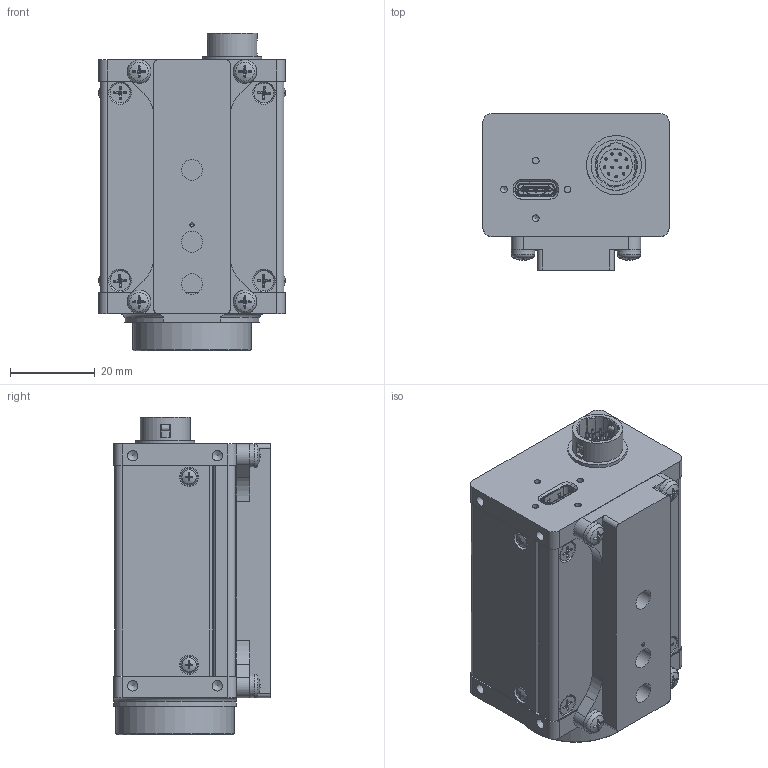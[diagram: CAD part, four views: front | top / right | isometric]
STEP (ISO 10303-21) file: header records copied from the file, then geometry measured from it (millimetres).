
FILE_DESCRIPTION(/* description */ (''),/* implementation_level */ '2;1');
FILE_NAME(/* name */ 'D:\HiDrive\1_Konstruktion\1_KUNDEN\TIS\205-16_12 MP-Camera (Sensor 23x20)\205-16-1_Cam.44x29-Sens.23x20-12MP-USB3.1C\IPT und STEP Ableitungen für Kunden\205-16-12_Cam.44x29_USB3.1C_C-FP_18,3_ER-11,7.stp',/* time_stamp */ '2017-11-05T18:12:23+01:00',/* author */ ('khw'),/* organization */ (''),/* preprocessor_version */ 'ST-DEVELOPER v16.5',/* originating_system */ 'Autodesk Inventor 2017',/* authorisation */ '');
FILE_SCHEMA (('AUTOMOTIVE_DESIGN { 1 0 10303 214 3 1 1 }'));
Products named in the file (4): 205-16-12_Cam.44x29_USB3.1C_C-FP_18,3_ER-11,7; 205-16-12_Cam.44x29_USB3.1C_C-FP_18,3_ER-11,7_1; 205-16-1-00-04_TripodAdapter; ISO 7045 - M3 x 6 - 4.8 - H
Assembly tree (6 placements, depth 2):
  205-16-12_Cam.44x29_USB3.1C_C-FP_18,3_ER-11,7
    205-16-12_Cam.44x29_USB3.1C_C-FP_18,3_ER-11,7_1
    205-16-1-00-04_TripodAdapter
    ISO 7045 - M3 x 6 - 4.8 - H  x4
Bounding box: 44.07 x 37 x 75.05 mm (x, y, z)
Volume: 41452.2 mm3; surface area: 32710.2 mm2
Topology: 7 solids, 26 shells, 3265 faces, 9516 edges, 6068 vertices
Faces by surface type: plane 2294, cylinder 635, cone 198, torus 90, bspline 40, sphere 8
Full cylindrical faces by diameter (mm): 0.1 x2, 0.5 x2, 0.6 x14, 0.95 x2, 1 x1, 1.221 x4, 1.567 x11, 1.6 x4, 1.783 x4, 2 x4, 2.013 x4, 2.224 x4, 2.3 x4, 2.459 x16, 2.7 x4, 2.729 x4, 3 x4, 3.3 x4, 4 x4, 4.5 x4, 4.7 x4, 4.917 x2, 4.978 x1, 7.7 x1, 8.6 x2, 10.188 x1, 11 x2, 11.9 x1, 14 x1, 19 x1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
Entity records: 108041 total; most frequent: CARTESIAN_POINT 20857, ORIENTED_EDGE 17952, DIRECTION 16828, EDGE_CURVE 8954, LINE 6970, VECTOR 6970, VERTEX_POINT 5812, AXIS2_PLACEMENT_3D 4929
